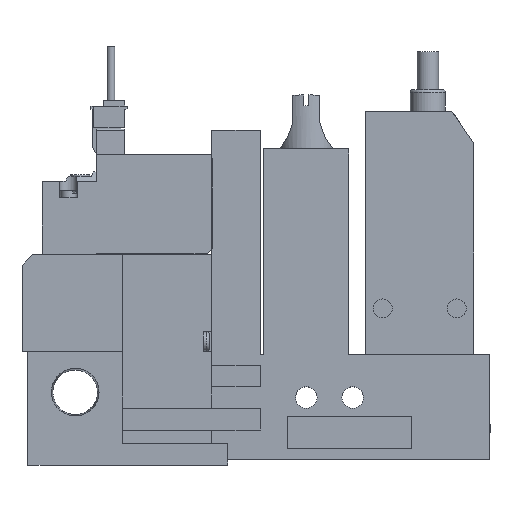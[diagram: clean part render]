
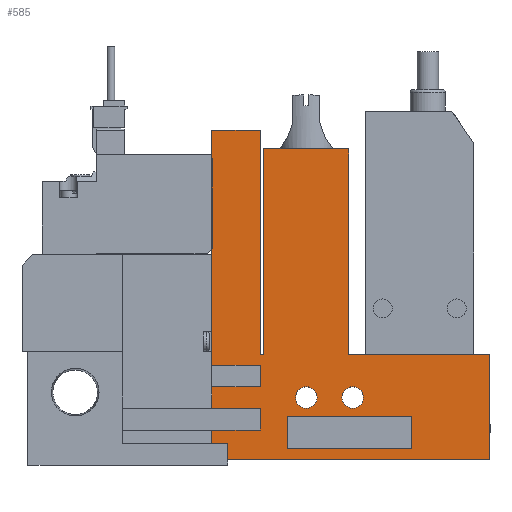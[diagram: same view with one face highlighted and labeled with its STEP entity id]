
A CAD part, top view. The second image highlights one B-rep face of the part: STEP entity #585.
In plain terms, the highlighted planar face has unit normal (0, 0, 1).
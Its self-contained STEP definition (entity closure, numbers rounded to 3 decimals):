
#585=ADVANCED_FACE('',(#1259,#1260,#1261,#1262),#1263,.T.);
#1259=FACE_OUTER_BOUND('',#2103,.T.);
#1260=FACE_BOUND('',#2104,.T.);
#1261=FACE_BOUND('',#2105,.T.);
#1262=FACE_BOUND('',#2106,.T.);
#1263=PLANE('',#2107);
#2103=EDGE_LOOP('',(#4522,#4523,#4524,#4525,#4526,#4527,#4528,#4529,#4530,#4531,#4532,#4533,#4534,#4535,#4536,#4537,#4538,#4539));
#2104=EDGE_LOOP('',(#4540,#4541,#4542,#4543));
#2105=EDGE_LOOP('',(#4544));
#2106=EDGE_LOOP('',(#4545));
#2107=AXIS2_PLACEMENT_3D('',#4546,#4547,#4548);
#4522=ORIENTED_EDGE('',*,*,#6123,.T.);
#4523=ORIENTED_EDGE('',*,*,#6124,.T.);
#4524=ORIENTED_EDGE('',*,*,#6125,.T.);
#4525=ORIENTED_EDGE('',*,*,#6126,.T.);
#4526=ORIENTED_EDGE('',*,*,#6127,.T.);
#4527=ORIENTED_EDGE('',*,*,#6128,.T.);
#4528=ORIENTED_EDGE('',*,*,#6129,.T.);
#4529=ORIENTED_EDGE('',*,*,#6130,.T.);
#4530=ORIENTED_EDGE('',*,*,#6105,.T.);
#4531=ORIENTED_EDGE('',*,*,#6131,.T.);
#4532=ORIENTED_EDGE('',*,*,#6132,.T.);
#4533=ORIENTED_EDGE('',*,*,#6133,.T.);
#4534=ORIENTED_EDGE('',*,*,#6134,.T.);
#4535=ORIENTED_EDGE('',*,*,#6135,.T.);
#4536=ORIENTED_EDGE('',*,*,#6136,.T.);
#4537=ORIENTED_EDGE('',*,*,#6137,.T.);
#4538=ORIENTED_EDGE('',*,*,#6138,.T.);
#4539=ORIENTED_EDGE('',*,*,#6139,.T.);
#4540=ORIENTED_EDGE('',*,*,#6140,.T.);
#4541=ORIENTED_EDGE('',*,*,#6141,.T.);
#4542=ORIENTED_EDGE('',*,*,#6142,.T.);
#4543=ORIENTED_EDGE('',*,*,#6143,.T.);
#4544=ORIENTED_EDGE('',*,*,#6144,.T.);
#4545=ORIENTED_EDGE('',*,*,#6107,.T.);
#4546=CARTESIAN_POINT('',(0.0,0.0,10.0));
#4547=DIRECTION('',(0.0,0.0,1.0));
#4548=DIRECTION('',(1.0,0.0,0.0));
#6105=EDGE_CURVE('',#7519,#7523,#7525,.T.);
#6107=EDGE_CURVE('',#7528,#7528,#7529,.T.);
#6123=EDGE_CURVE('',#7560,#7561,#7562,.T.);
#6124=EDGE_CURVE('',#7561,#7563,#7564,.T.);
#6125=EDGE_CURVE('',#7563,#7565,#7566,.T.);
#6126=EDGE_CURVE('',#7565,#7567,#7568,.T.);
#6127=EDGE_CURVE('',#7567,#7569,#7570,.T.);
#6128=EDGE_CURVE('',#7569,#7571,#7572,.T.);
#6129=EDGE_CURVE('',#7571,#7573,#7574,.T.);
#6130=EDGE_CURVE('',#7573,#7519,#7575,.T.);
#6131=EDGE_CURVE('',#7523,#7576,#7577,.T.);
#6132=EDGE_CURVE('',#7576,#7578,#7579,.T.);
#6133=EDGE_CURVE('',#7578,#7580,#7581,.T.);
#6134=EDGE_CURVE('',#7580,#7582,#7583,.T.);
#6135=EDGE_CURVE('',#7582,#7584,#7585,.T.);
#6136=EDGE_CURVE('',#7584,#7586,#7587,.T.);
#6137=EDGE_CURVE('',#7586,#7588,#7589,.T.);
#6138=EDGE_CURVE('',#7588,#7590,#7591,.T.);
#6139=EDGE_CURVE('',#7590,#7560,#7592,.T.);
#6140=EDGE_CURVE('',#7593,#7594,#7595,.T.);
#6141=EDGE_CURVE('',#7594,#7596,#7597,.T.);
#6142=EDGE_CURVE('',#7596,#7598,#7599,.T.);
#6143=EDGE_CURVE('',#7598,#7593,#7600,.T.);
#6144=EDGE_CURVE('',#7601,#7601,#7602,.T.);
#7519=VERTEX_POINT('',#9798);
#7523=VERTEX_POINT('',#9804);
#7525=LINE('',#9807,#9808);
#7528=VERTEX_POINT('',#9811);
#7529=CIRCLE('',#9812,2.0);
#7560=VERTEX_POINT('',#9858);
#7561=VERTEX_POINT('',#9859);
#7562=LINE('',#9860,#9861);
#7563=VERTEX_POINT('',#9862);
#7564=LINE('',#9863,#9864);
#7565=VERTEX_POINT('',#9865);
#7566=LINE('',#9866,#9867);
#7567=VERTEX_POINT('',#9868);
#7568=LINE('',#9869,#9870);
#7569=VERTEX_POINT('',#9871);
#7570=LINE('',#9872,#9873);
#7571=VERTEX_POINT('',#9874);
#7572=LINE('',#9875,#9876);
#7573=VERTEX_POINT('',#9877);
#7574=LINE('',#9878,#9879);
#7575=LINE('',#9880,#9881);
#7576=VERTEX_POINT('',#9882);
#7577=LINE('',#9883,#9884);
#7578=VERTEX_POINT('',#9885);
#7579=LINE('',#9886,#9887);
#7580=VERTEX_POINT('',#9888);
#7581=LINE('',#9889,#9890);
#7582=VERTEX_POINT('',#9891);
#7583=LINE('',#9892,#9893);
#7584=VERTEX_POINT('',#9894);
#7585=LINE('',#9895,#9896);
#7586=VERTEX_POINT('',#9897);
#7587=LINE('',#9898,#9899);
#7588=VERTEX_POINT('',#9900);
#7589=LINE('',#9901,#9902);
#7590=VERTEX_POINT('',#9903);
#7591=LINE('',#9904,#9905);
#7592=LINE('',#9906,#9907);
#7593=VERTEX_POINT('',#9908);
#7594=VERTEX_POINT('',#9909);
#7595=LINE('',#9910,#9911);
#7596=VERTEX_POINT('',#9912);
#7597=LINE('',#9913,#9914);
#7598=VERTEX_POINT('',#9915);
#7599=LINE('',#9916,#9917);
#7600=LINE('',#9918,#9919);
#7601=VERTEX_POINT('',#9920);
#7602=CIRCLE('',#9921,2.0);
#9798=CARTESIAN_POINT('',(35.1,5.5,10.0));
#9804=CARTESIAN_POINT('',(35.1,0.0,10.0));
#9807=CARTESIAN_POINT('',(35.1,0.0,10.0));
#9808=VECTOR('',#11380,1.0);
#9811=CARTESIAN_POINT('',(63.2,11.5,10.0));
#9812=AXIS2_PLACEMENT_3D('',#11384,#11385,#11386);
#9858=CARTESIAN_POINT('',(35.1,61.0,10.0));
#9859=CARTESIAN_POINT('',(35.1,17.5,10.0));
#9860=CARTESIAN_POINT('',(35.1,61.0,10.0));
#9861=VECTOR('',#11402,1.0);
#9862=CARTESIAN_POINT('',(44.1,17.5,10.0));
#9863=CARTESIAN_POINT('',(0.0,17.5,10.0));
#9864=VECTOR('',#11403,1.0);
#9865=CARTESIAN_POINT('',(44.1,13.5,10.0));
#9866=CARTESIAN_POINT('',(44.1,0.0,10.0));
#9867=VECTOR('',#11404,1.0);
#9868=CARTESIAN_POINT('',(35.1,13.5,10.0));
#9869=CARTESIAN_POINT('',(0.0,13.5,10.0));
#9870=VECTOR('',#11405,1.0);
#9871=CARTESIAN_POINT('',(35.1,9.5,10.0));
#9872=CARTESIAN_POINT('',(35.1,0.0,10.0));
#9873=VECTOR('',#11406,1.0);
#9874=CARTESIAN_POINT('',(44.1,9.5,10.0));
#9875=CARTESIAN_POINT('',(0.0,9.5,10.0));
#9876=VECTOR('',#11407,1.0);
#9877=CARTESIAN_POINT('',(44.1,5.5,10.0));
#9878=CARTESIAN_POINT('',(44.1,0.0,10.0));
#9879=VECTOR('',#11408,1.0);
#9880=CARTESIAN_POINT('',(0.0,5.5,10.0));
#9881=VECTOR('',#11409,1.0);
#9882=CARTESIAN_POINT('',(86.6,0.0,10.0));
#9883=CARTESIAN_POINT('',(18.6,0.0,10.0));
#9884=VECTOR('',#11410,1.0);
#9885=CARTESIAN_POINT('',(86.6,19.5,10.0));
#9886=CARTESIAN_POINT('',(86.6,0.0,10.0));
#9887=VECTOR('',#11411,1.0);
#9888=CARTESIAN_POINT('',(60.45,19.5,10.0));
#9889=CARTESIAN_POINT('',(86.6,19.5,10.0));
#9890=VECTOR('',#11412,1.0);
#9891=CARTESIAN_POINT('',(60.45,57.5,10.0));
#9892=CARTESIAN_POINT('',(60.45,19.5,10.0));
#9893=VECTOR('',#11413,1.0);
#9894=CARTESIAN_POINT('',(44.75,57.5,10.0));
#9895=CARTESIAN_POINT('',(60.45,57.5,10.0));
#9896=VECTOR('',#11414,1.0);
#9897=CARTESIAN_POINT('',(44.75,19.5,10.0));
#9898=CARTESIAN_POINT('',(44.75,57.5,10.0));
#9899=VECTOR('',#11415,1.0);
#9900=CARTESIAN_POINT('',(44.1,19.5,10.0));
#9901=CARTESIAN_POINT('',(44.75,19.5,10.0));
#9902=VECTOR('',#11416,1.0);
#9903=CARTESIAN_POINT('',(44.1,61.0,10.0));
#9904=CARTESIAN_POINT('',(44.1,19.5,10.0));
#9905=VECTOR('',#11417,1.0);
#9906=CARTESIAN_POINT('',(44.1,61.0,10.0));
#9907=VECTOR('',#11418,1.0);
#9908=CARTESIAN_POINT('',(49.1,2.0,10.0));
#9909=CARTESIAN_POINT('',(49.1,8.0,10.0));
#9910=CARTESIAN_POINT('',(49.1,0.0,10.0));
#9911=VECTOR('',#11419,1.0);
#9912=CARTESIAN_POINT('',(72.1,8.0,10.0));
#9913=CARTESIAN_POINT('',(0.0,8.0,10.0));
#9914=VECTOR('',#11420,1.0);
#9915=CARTESIAN_POINT('',(72.1,2.0,10.0));
#9916=CARTESIAN_POINT('',(72.1,0.0,10.0));
#9917=VECTOR('',#11421,1.0);
#9918=CARTESIAN_POINT('',(0.0,2.0,10.0));
#9919=VECTOR('',#11422,1.0);
#9920=CARTESIAN_POINT('',(54.6,11.5,10.0));
#9921=AXIS2_PLACEMENT_3D('',#11423,#11424,#11425);
#11380=DIRECTION('',(0.0,-1.0,0.0));
#11384=CARTESIAN_POINT('',(61.2,11.5,10.0));
#11385=DIRECTION('',(0.0,0.0,-1.0));
#11386=DIRECTION('',(1.0,0.0,0.0));
#11402=DIRECTION('',(0.0,-1.0,0.0));
#11403=DIRECTION('',(1.0,0.0,0.0));
#11404=DIRECTION('',(0.0,-1.0,0.0));
#11405=DIRECTION('',(-1.0,0.0,0.0));
#11406=DIRECTION('',(0.0,-1.0,0.0));
#11407=DIRECTION('',(1.0,0.0,0.0));
#11408=DIRECTION('',(0.0,-1.0,0.0));
#11409=DIRECTION('',(-1.0,0.0,0.0));
#11410=DIRECTION('',(1.0,0.0,0.0));
#11411=DIRECTION('',(0.0,1.0,0.0));
#11412=DIRECTION('',(-1.0,0.0,0.0));
#11413=DIRECTION('',(0.0,1.0,0.0));
#11414=DIRECTION('',(-1.0,0.0,0.0));
#11415=DIRECTION('',(0.0,-1.0,0.0));
#11416=DIRECTION('',(-1.0,0.0,0.0));
#11417=DIRECTION('',(0.0,1.0,0.0));
#11418=DIRECTION('',(-1.0,0.0,0.0));
#11419=DIRECTION('',(0.0,1.0,0.0));
#11420=DIRECTION('',(1.0,0.0,0.0));
#11421=DIRECTION('',(0.0,-1.0,0.0));
#11422=DIRECTION('',(-1.0,0.0,0.0));
#11423=CARTESIAN_POINT('',(52.6,11.5,10.0));
#11424=DIRECTION('',(0.0,0.0,-1.0));
#11425=DIRECTION('',(1.0,0.0,0.0));
